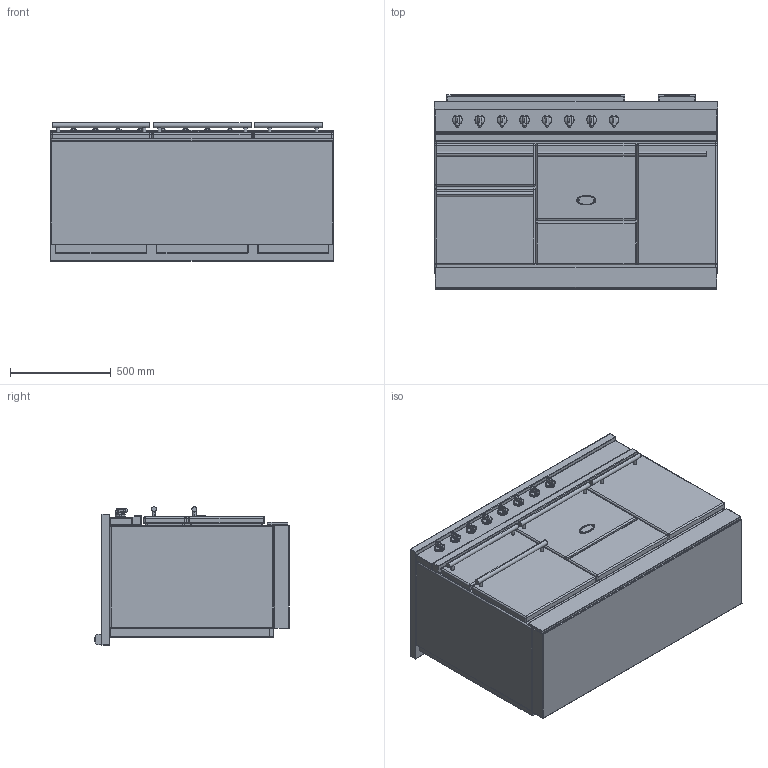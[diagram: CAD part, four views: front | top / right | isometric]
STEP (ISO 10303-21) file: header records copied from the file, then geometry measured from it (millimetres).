
FILE_DESCRIPTION((''),'2;1');
FILE_NAME('LMVI1453D_ASM','2022-04-13T11:19:58',('stagiaire'),(''),'CREO PARAMETRIC BY PTC INC, 2021424','CREO PARAMETRIC BY PTC INC, 2021424','');
FILE_SCHEMA(('AP203_CONFIGURATION_CONTROLLED_3D_DESIGN_OF_MECHANICAL_PARTS_AND_ASSEMBLIES_MIM_LF { 1 0 10303 403 2 1 2 }'));
Products named in the file (13): BASE_EXPORT_CHAGNY_1400D_MODERN; 65064012; 19150009; 88064012_ASM; 65049009; 65650001; BASE_EXPORT_CHAGNY_1400D_MODERN_ASM; TABLE_1405D_INDUCTION; 65052013; CHEMINEE_2020_LG182_EXPORT_STEP; CHEMINEE_2020_LG882_EXPORT_STEP; TABLE_1405D_INDUCTION_ASM; LMVI1453D_ASM
Assembly tree (19 placements, depth 4):
  LMVI1453D_ASM
    BASE_EXPORT_CHAGNY_1400D_MODERN_ASM
      BASE_EXPORT_CHAGNY_1400D_MODERN
      88064012_ASM  x8
        65064012
        19150009
      65049009
      65650001
    TABLE_1405D_INDUCTION_ASM
      TABLE_1405D_INDUCTION
      65052013
      CHEMINEE_2020_LG182_EXPORT_STEP
      CHEMINEE_2020_LG882_EXPORT_STEP
Bounding box: 1405 x 963 x 687.75 mm (x, y, z)
Volume: 759337264 mm3; surface area: 11555172.3 mm2
Topology: 27 solids, 27 shells, 3490 faces, 10002 edges, 6372 vertices
Faces by surface type: plane 1501, cylinder 1303, sphere 290, bspline 265, torus 91, cone 38, extrusion 2
Entity records: 104218 total; most frequent: CARTESIAN_POINT 25222, ORIENTED_EDGE 14416, DIRECTION 13948, EDGE_CURVE 7208, VECTOR 5464, LINE 5462, VERTEX_POINT 4657, AXIS2_PLACEMENT_3D 4224
